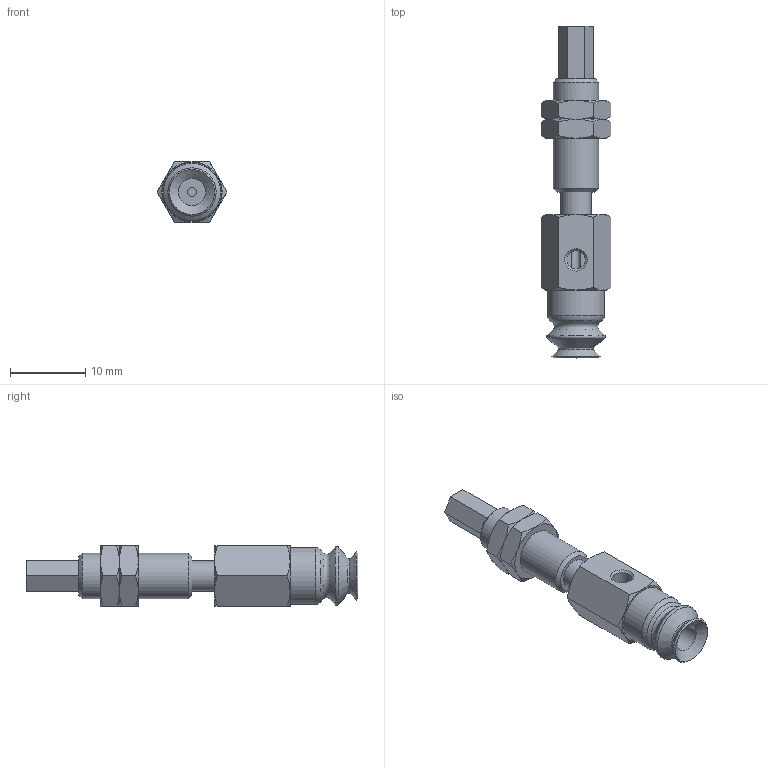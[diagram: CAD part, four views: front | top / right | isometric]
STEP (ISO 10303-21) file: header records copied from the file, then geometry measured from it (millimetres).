
FILE_DESCRIPTION(('STEP AP203'),'1');
FILE_NAME('.stp','2025-04-23T06:59:18',(' '),(' '),'Spatial InterOp 3D',' ',' ');
FILE_SCHEMA(('CONFIG_CONTROL_DESIGN'));
Length unit declared in the file: millimetre
Products named in the file (6): BNABPJYS-6-3-※; CONNECTOR_S-6-3; NUT-NAPJ-6-3-s; NAPJTS-6-3-FBODY; NAPJTS-6-3-MBODY; BPJG-6-※
Assembly tree (6 placements, depth 2):
  BNABPJYS-6-3-※
    CONNECTOR_S-6-3
    NUT-NAPJ-6-3-s  x2
    NAPJTS-6-3-FBODY
    NAPJTS-6-3-MBODY
    BPJG-6-※
Bounding box: 9.24 x 44 x 8 mm (x, y, z)
Volume: 1481.7 mm3; surface area: 2255.9 mm2
Topology: 6 solids, 6 shells, 134 faces, 290 edges, 173 vertices
Faces by surface type: cone 55, plane 55, cylinder 15, torus 9
Full cylindrical faces by diameter (mm): 1.2 x1, 2.459 x2, 3 x1, 3.64 x1, 4 x4, 5.188 x2, 6 x3, 7.5 x1
Entity records: 3230 total; most frequent: CARTESIAN_POINT 762, DIRECTION 456, ORIENTED_EDGE 384, AXIS2_PLACEMENT_3D 200, EDGE_CURVE 192, EDGE_LOOP 164, FACE_OUTER_BOUND 134, VERTEX_POINT 134
